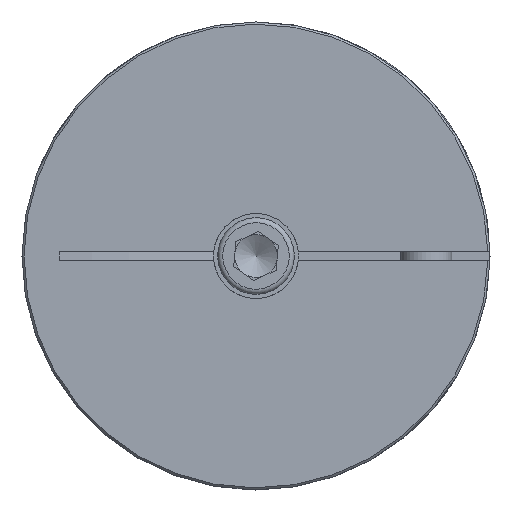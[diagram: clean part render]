
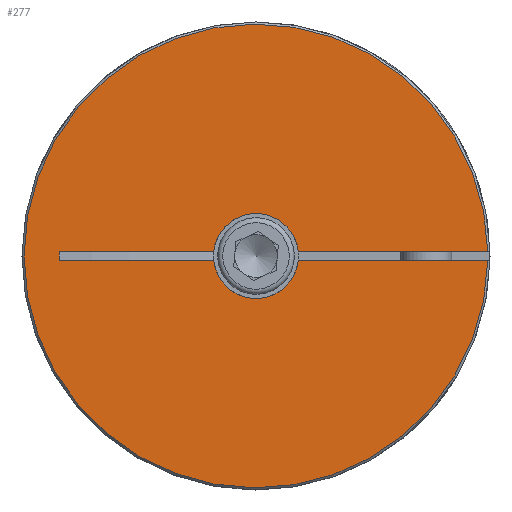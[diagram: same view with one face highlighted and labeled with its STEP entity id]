
A CAD part, left-side view. The second image highlights one B-rep face of the part: STEP entity #277.
In plain terms, the highlighted planar face has unit normal (-1, 0, 0).
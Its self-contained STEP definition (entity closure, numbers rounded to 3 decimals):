
#277 = ADVANCED_FACE( 'NONE', ( #583 ), #584, .F. );
#583 = FACE_OUTER_BOUND( '', #1010, .T. );
#584 = PLANE( '', #1011 );
#1010 = EDGE_LOOP( '', ( #1506, #1507, #1508, #1509, #1510, #1511, #1512, #1513 ) );
#1011 = AXIS2_PLACEMENT_3D( '', #1514, #1515, #1516 );
#1506 = ORIENTED_EDGE( '', *, *, #2137, .T. );
#1507 = ORIENTED_EDGE( '', *, *, #2218, .F. );
#1508 = ORIENTED_EDGE( '', *, *, #2219, .T. );
#1509 = ORIENTED_EDGE( '', *, *, #2220, .T. );
#1510 = ORIENTED_EDGE( '', *, *, #2221, .F. );
#1511 = ORIENTED_EDGE( '', *, *, #2222, .F. );
#1512 = ORIENTED_EDGE( '', *, *, #2223, .F. );
#1513 = ORIENTED_EDGE( '', *, *, #2224, .T. );
#1514 = CARTESIAN_POINT( '', ( 0., 15., 0. ) );
#1515 = DIRECTION( '', ( 1., 0., 0. ) );
#1516 = DIRECTION( '', ( 0., 1., 0. ) );
#2137 = EDGE_CURVE( 'NONE', #2425, #2427, #2429, .T. );
#2218 = EDGE_CURVE( '', #2554, #2427, #2555, .T. );
#2219 = EDGE_CURVE( '', #2554, #2556, #2557, .T. );
#2220 = EDGE_CURVE( 'NONE', #2556, #2558, #2559, .F. );
#2221 = EDGE_CURVE( '', #2560, #2558, #2561, .F. );
#2222 = EDGE_CURVE( '', #2562, #2560, #2563, .T. );
#2223 = EDGE_CURVE( 'NONE', #2564, #2562, #2565, .F. );
#2224 = EDGE_CURVE( 'NONE', #2564, #2425, #2566, .T. );
#2425 = VERTEX_POINT( 'NONE', #2836 );
#2427 = VERTEX_POINT( '', #2838 );
#2429 = LINE( '', #2841, #2842 );
#2554 = VERTEX_POINT( '', #3085 );
#2555 = CIRCLE( '', #3086, 10. );
#2556 = VERTEX_POINT( 'NONE', #3087 );
#2557 = LINE( '', #3088, #3089 );
#2558 = VERTEX_POINT( 'NONE', #3090 );
#2559 = CIRCLE( '', #3091, 54.5 );
#2560 = VERTEX_POINT( '', #3092 );
#2561 = LINE( '', #3093, #3094 );
#2562 = VERTEX_POINT( '', #3095 );
#2563 = CIRCLE( '', #3096, 10. );
#2564 = VERTEX_POINT( 'NONE', #3097 );
#2565 = LINE( '', #3098, #3099 );
#2566 = LINE( '', #3100, #3101 );
#2836 = CARTESIAN_POINT( '', ( 0., 46.303, 1. ) );
#2838 = CARTESIAN_POINT( '', ( 0., 9.95, 1. ) );
#2841 = CARTESIAN_POINT( '', ( 0., 15., 1. ) );
#2842 = VECTOR( '', #3502, 1000. );
#3085 = CARTESIAN_POINT( '', ( 0., -9.95, 1. ) );
#3086 = AXIS2_PLACEMENT_3D( '', #3619, #3620, #3621 );
#3087 = CARTESIAN_POINT( '', ( 0., -54.491, 1. ) );
#3088 = CARTESIAN_POINT( '', ( 0., 15., 1. ) );
#3089 = VECTOR( '', #3622, 1000. );
#3090 = CARTESIAN_POINT( '', ( 0., -54.491, -1. ) );
#3091 = AXIS2_PLACEMENT_3D( '', #3623, #3624, #3625 );
#3092 = CARTESIAN_POINT( '', ( 0., -9.95, -1. ) );
#3093 = CARTESIAN_POINT( '', ( 0., -15., -1. ) );
#3094 = VECTOR( '', #3626, 1000. );
#3095 = CARTESIAN_POINT( '', ( 0., 9.95, -1. ) );
#3096 = AXIS2_PLACEMENT_3D( '', #3627, #3628, #3629 );
#3097 = CARTESIAN_POINT( '', ( 0., 46.303, -1. ) );
#3098 = CARTESIAN_POINT( '', ( 0., -15., -1. ) );
#3099 = VECTOR( '', #3630, 1000. );
#3100 = CARTESIAN_POINT( '', ( 0., 46.303, -1. ) );
#3101 = VECTOR( '', #3631, 1000. );
#3502 = DIRECTION( '', ( 0., -1., 0. ) );
#3619 = CARTESIAN_POINT( '', ( 0., 0., 0. ) );
#3620 = DIRECTION( '', ( -1., 0., 0. ) );
#3621 = DIRECTION( '', ( 0., 0., 1. ) );
#3622 = DIRECTION( '', ( 0., -1., 0. ) );
#3623 = CARTESIAN_POINT( '', ( 0., 0., 0. ) );
#3624 = DIRECTION( '', ( 1., 0., 0. ) );
#3625 = DIRECTION( '', ( 0., 0., -1. ) );
#3626 = DIRECTION( '', ( 0., 1., 0. ) );
#3627 = CARTESIAN_POINT( '', ( 0., 0., 0. ) );
#3628 = DIRECTION( '', ( -1., 0., 0. ) );
#3629 = DIRECTION( '', ( 0., 0., 1. ) );
#3630 = DIRECTION( '', ( 0., 1., 0. ) );
#3631 = DIRECTION( '', ( 0., 0., 1. ) );
